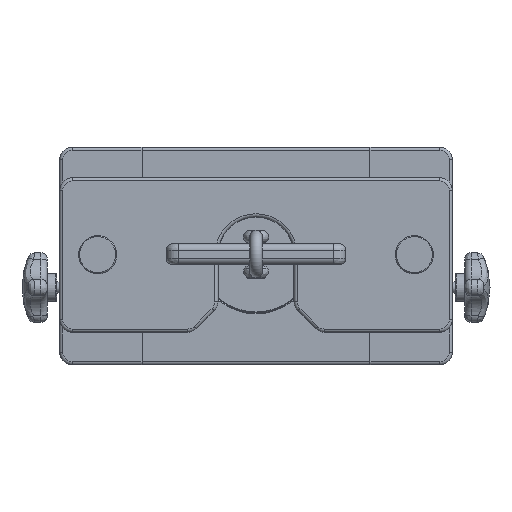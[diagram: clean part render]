
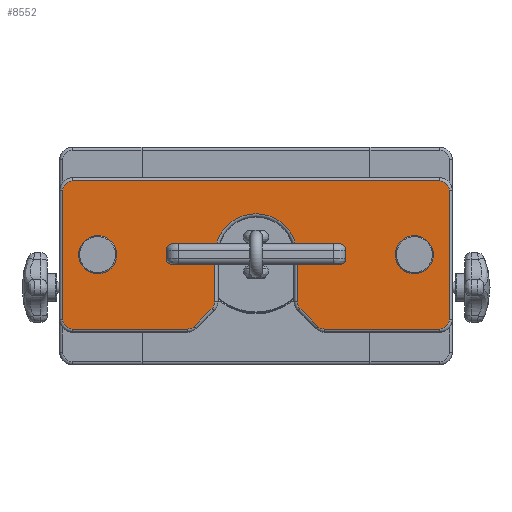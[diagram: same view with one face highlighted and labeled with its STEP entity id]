
A CAD part, top view. The second image highlights one B-rep face of the part: STEP entity #8552.
In plain terms, the highlighted planar face has unit normal (0, 0, 1).
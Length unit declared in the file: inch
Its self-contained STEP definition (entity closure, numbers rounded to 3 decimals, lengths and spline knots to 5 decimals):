
#542=PLANE('',#9593);
#997=FACE_OUTER_BOUND('',#1589,.T.);
#1589=EDGE_LOOP('',(#7410,#7411,#7412,#7413,#7414,#7415,#7416,#7417,#7418,
#7419,#7420,#7421,#7422,#7423,#7424,#7425,#7426,#7427));
#1997=LINE('',#14111,#2486);
#1999=LINE('',#14127,#2488);
#2001=LINE('',#14132,#2490);
#2002=LINE('',#14145,#2491);
#2005=LINE('',#14152,#2494);
#2006=LINE('',#14169,#2495);
#2009=LINE('',#14176,#2498);
#2010=LINE('',#14193,#2499);
#2013=LINE('',#14200,#2502);
#2486=VECTOR('',#11224,1.);
#2488=VECTOR('',#11246,1.);
#2490=VECTOR('',#11252,1.);
#2491=VECTOR('',#11269,1.);
#2494=VECTOR('',#11276,1.);
#2495=VECTOR('',#11297,1.);
#2498=VECTOR('',#11304,1.);
#2499=VECTOR('',#11325,1.);
#2502=VECTOR('',#11332,1.);
#2996=CIRCLE('',#9228,0.1875);
#2999=CIRCLE('',#9232,0.1875);
#3003=CIRCLE('',#9239,0.1875);
#3005=CIRCLE('',#9242,0.1875);
#3009=CIRCLE('',#9249,0.1875);
#3013=CIRCLE('',#9254,0.1875);
#3017=CIRCLE('',#9261,0.1875);
#3021=CIRCLE('',#9266,0.1875);
#3024=CIRCLE('',#9272,0.8125);
#3760=VERTEX_POINT('',#14108);
#3761=VERTEX_POINT('',#14110);
#3763=VERTEX_POINT('',#14116);
#3764=VERTEX_POINT('',#14121);
#3765=VERTEX_POINT('',#14125);
#3766=VERTEX_POINT('',#14130);
#3767=VERTEX_POINT('',#14134);
#3768=VERTEX_POINT('',#14138);
#3770=VERTEX_POINT('',#14143);
#3771=VERTEX_POINT('',#14148);
#3774=VERTEX_POINT('',#14155);
#3775=VERTEX_POINT('',#14160);
#3778=VERTEX_POINT('',#14167);
#3779=VERTEX_POINT('',#14172);
#3782=VERTEX_POINT('',#14179);
#3783=VERTEX_POINT('',#14184);
#3786=VERTEX_POINT('',#14191);
#3787=VERTEX_POINT('',#14196);
#4763=EDGE_CURVE('',#3760,#3761,#1997,.T.);
#4767=EDGE_CURVE('',#3763,#3760,#2996,.T.);
#4770=EDGE_CURVE('',#3761,#3764,#2999,.T.);
#4772=EDGE_CURVE('',#3765,#3763,#1999,.T.);
#4775=EDGE_CURVE('',#3764,#3766,#2001,.T.);
#4777=EDGE_CURVE('',#3767,#3765,#3003,.T.);
#4779=EDGE_CURVE('',#3766,#3768,#3005,.T.);
#4781=EDGE_CURVE('',#3770,#3767,#2002,.T.);
#4785=EDGE_CURVE('',#3768,#3771,#2005,.T.);
#4787=EDGE_CURVE('',#3774,#3770,#3009,.T.);
#4791=EDGE_CURVE('',#3771,#3775,#3013,.T.);
#4793=EDGE_CURVE('',#3778,#3774,#2006,.T.);
#4797=EDGE_CURVE('',#3775,#3779,#2009,.T.);
#4799=EDGE_CURVE('',#3782,#3778,#3017,.T.);
#4803=EDGE_CURVE('',#3779,#3783,#3021,.T.);
#4805=EDGE_CURVE('',#3786,#3782,#2010,.T.);
#4809=EDGE_CURVE('',#3783,#3787,#2013,.T.);
#4810=EDGE_CURVE('',#3787,#3786,#3024,.T.);
#7410=ORIENTED_EDGE('',*,*,#4763,.F.);
#7411=ORIENTED_EDGE('',*,*,#4767,.F.);
#7412=ORIENTED_EDGE('',*,*,#4772,.F.);
#7413=ORIENTED_EDGE('',*,*,#4777,.F.);
#7414=ORIENTED_EDGE('',*,*,#4781,.F.);
#7415=ORIENTED_EDGE('',*,*,#4787,.F.);
#7416=ORIENTED_EDGE('',*,*,#4793,.F.);
#7417=ORIENTED_EDGE('',*,*,#4799,.F.);
#7418=ORIENTED_EDGE('',*,*,#4805,.F.);
#7419=ORIENTED_EDGE('',*,*,#4810,.F.);
#7420=ORIENTED_EDGE('',*,*,#4809,.F.);
#7421=ORIENTED_EDGE('',*,*,#4803,.F.);
#7422=ORIENTED_EDGE('',*,*,#4797,.F.);
#7423=ORIENTED_EDGE('',*,*,#4791,.F.);
#7424=ORIENTED_EDGE('',*,*,#4785,.F.);
#7425=ORIENTED_EDGE('',*,*,#4779,.F.);
#7426=ORIENTED_EDGE('',*,*,#4775,.F.);
#7427=ORIENTED_EDGE('',*,*,#4770,.F.);
#8552=ADVANCED_FACE('',(#997),#542,.T.);
#9228=AXIS2_PLACEMENT_3D('',#14118,#11232,#11233);
#9232=AXIS2_PLACEMENT_3D('',#14123,#11240,#11241);
#9239=AXIS2_PLACEMENT_3D('',#14136,#11257,#11258);
#9242=AXIS2_PLACEMENT_3D('',#14140,#11263,#11264);
#9249=AXIS2_PLACEMENT_3D('',#14157,#11281,#11282);
#9254=AXIS2_PLACEMENT_3D('',#14164,#11291,#11292);
#9261=AXIS2_PLACEMENT_3D('',#14181,#11309,#11310);
#9266=AXIS2_PLACEMENT_3D('',#14188,#11319,#11320);
#9272=AXIS2_PLACEMENT_3D('',#14202,#11335,#11336);
#9593=AXIS2_PLACEMENT_3D('',#17691,#12080,#12081);
#11224=DIRECTION('',(1.,0.,0.));
#11232=DIRECTION('center_axis',(0.,0.,-1.));
#11233=DIRECTION('ref_axis',(-0.707,0.707,0.));
#11240=DIRECTION('center_axis',(0.,0.,-1.));
#11241=DIRECTION('ref_axis',(0.707,0.707,0.));
#11246=DIRECTION('',(0.,1.,0.));
#11252=DIRECTION('',(0.,-1.,0.));
#11257=DIRECTION('center_axis',(0.,0.,-1.));
#11258=DIRECTION('ref_axis',(-0.707,-0.707,0.));
#11263=DIRECTION('center_axis',(0.,0.,-1.));
#11264=DIRECTION('ref_axis',(0.707,-0.707,0.));
#11269=DIRECTION('',(-1.,0.,0.));
#11276=DIRECTION('',(-1.,0.,0.));
#11281=DIRECTION('center_axis',(0.,0.,-1.));
#11282=DIRECTION('ref_axis',(0.383,-0.924,0.));
#11291=DIRECTION('center_axis',(0.,0.,-1.));
#11292=DIRECTION('ref_axis',(-0.383,-0.924,0.));
#11297=DIRECTION('',(-0.707,-0.707,0.));
#11304=DIRECTION('',(-0.707,0.707,0.));
#11309=DIRECTION('center_axis',(0.,0.,-1.));
#11310=DIRECTION('ref_axis',(0.924,-0.383,0.));
#11319=DIRECTION('center_axis',(0.,0.,-1.));
#11320=DIRECTION('ref_axis',(-0.924,-0.383,0.));
#11325=DIRECTION('',(0.,-1.,0.));
#11332=DIRECTION('',(0.,1.,0.));
#11335=DIRECTION('center_axis',(0.,0.,1.));
#11336=DIRECTION('ref_axis',(0.,1.,0.));
#12080=DIRECTION('center_axis',(0.,0.,1.));
#12081=DIRECTION('ref_axis',(-1.,0.,0.));
#14108=CARTESIAN_POINT('',(-63.07474,96.13148,85.48463));
#14110=CARTESIAN_POINT('',(-55.82474,96.13148,85.48463));
#14111=CARTESIAN_POINT('',(-59.44974,96.13148,85.48463));
#14116=CARTESIAN_POINT('',(-63.26224,95.94398,85.48463));
#14118=CARTESIAN_POINT('Origin',(-63.07474,95.94398,85.48463));
#14121=CARTESIAN_POINT('',(-55.63724,95.94398,85.48463));
#14123=CARTESIAN_POINT('Origin',(-55.82474,95.94398,85.48463));
#14125=CARTESIAN_POINT('',(-63.26224,93.39398,85.48463));
#14127=CARTESIAN_POINT('',(-63.26224,94.66898,85.48463));
#14130=CARTESIAN_POINT('',(-55.63724,93.39398,85.48463));
#14132=CARTESIAN_POINT('',(-55.63724,94.66898,85.48463));
#14134=CARTESIAN_POINT('',(-63.07474,93.20648,85.48463));
#14136=CARTESIAN_POINT('Origin',(-63.07474,93.39398,85.48463));
#14138=CARTESIAN_POINT('',(-55.82474,93.20648,85.48463));
#14140=CARTESIAN_POINT('Origin',(-55.82474,93.39398,85.48463));
#14143=CARTESIAN_POINT('',(-60.80329,93.20648,85.48463));
#14145=CARTESIAN_POINT('',(-59.44974,93.20648,85.48463));
#14148=CARTESIAN_POINT('',(-58.09619,93.20648,85.48463));
#14152=CARTESIAN_POINT('',(-59.44974,93.20648,85.48463));
#14155=CARTESIAN_POINT('',(-60.67071,93.26139,85.48463));
#14157=CARTESIAN_POINT('Origin',(-60.80329,93.39398,85.48463));
#14160=CARTESIAN_POINT('',(-58.22877,93.26139,85.48463));
#14164=CARTESIAN_POINT('Origin',(-58.09619,93.39398,85.48463));
#14167=CARTESIAN_POINT('',(-60.31716,93.61495,85.48463));
#14169=CARTESIAN_POINT('',(-59.92519,94.00692,85.48463));
#14172=CARTESIAN_POINT('',(-58.58232,93.61495,85.48463));
#14176=CARTESIAN_POINT('',(-58.9743,94.00692,85.48463));
#14179=CARTESIAN_POINT('',(-60.26224,93.74753,85.48463));
#14181=CARTESIAN_POINT('Origin',(-60.44974,93.74753,85.48463));
#14184=CARTESIAN_POINT('',(-58.63724,93.74753,85.48463));
#14188=CARTESIAN_POINT('Origin',(-58.44974,93.74753,85.48463));
#14191=CARTESIAN_POINT('',(-60.26224,94.66898,85.48463));
#14193=CARTESIAN_POINT('',(-60.26224,93.39604,85.48463));
#14196=CARTESIAN_POINT('',(-58.63724,94.66898,85.48463));
#14200=CARTESIAN_POINT('',(-58.63724,93.39604,85.48463));
#14202=CARTESIAN_POINT('Origin',(-59.44974,94.66898,85.48463));
#17691=CARTESIAN_POINT('Origin',(-56.32474,94.66898,85.48463));
